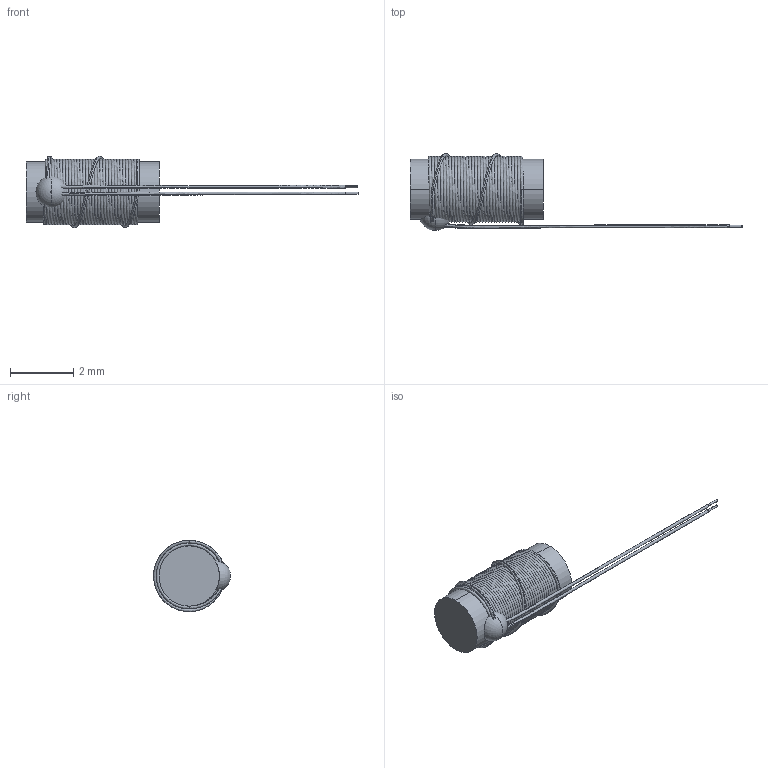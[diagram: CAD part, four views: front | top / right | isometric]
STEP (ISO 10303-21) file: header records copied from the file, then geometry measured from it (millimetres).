
FILE_DESCRIPTION (( 'STEP AP214' ), '1' );
FILE_NAME ('Coil_RF02AA10.STEP', '2017-02-02T07:54:59', ( '' ), ( '' ), 'SwSTEP 2.0', 'SolidWorks 2016', '' );
FILE_SCHEMA (( 'AUTOMOTIVE_DESIGN' ));
Length unit declared in the file: millimetre
Products named in the file (1): Coil_RF02AA10
Bounding box: 10.46 x 2.42 x 2.25 mm (x, y, z)
Volume: 13.5 mm3; surface area: 98.8 mm2
Topology: 3 solids, 3 shells, 25 faces, 147 edges, 98 vertices
Faces by surface type: bspline 9, cylinder 7, plane 7, torus 2
Entity records: 9181 total; most frequent: CARTESIAN_POINT 8106, ORIENTED_EDGE 294, EDGE_CURVE 147, VERTEX_POINT 98, DIRECTION 86, B_SPLINE_CURVE_WITH_KNOTS 82, EDGE_LOOP 61, AXIS2_PLACEMENT_3D 40
